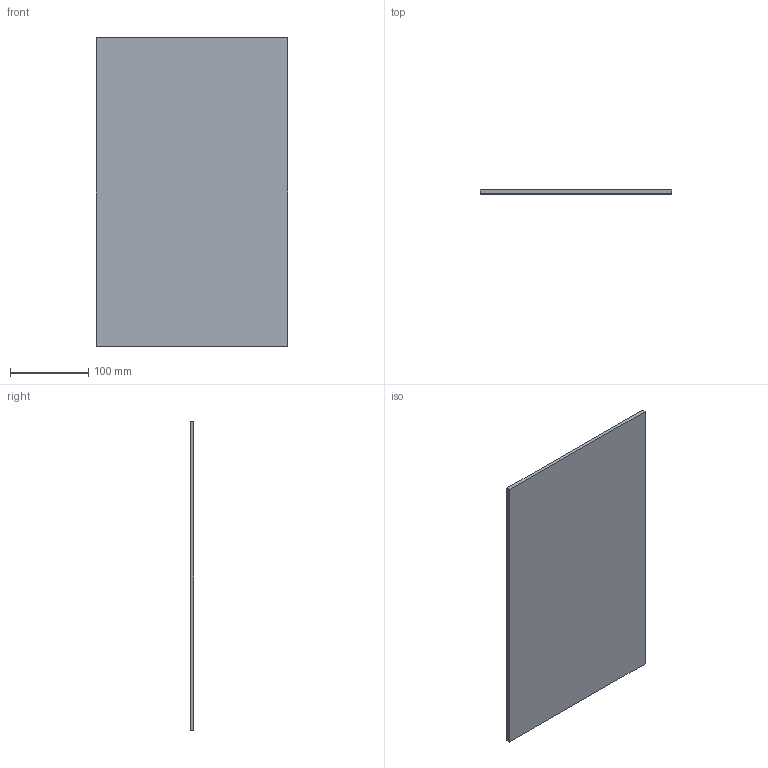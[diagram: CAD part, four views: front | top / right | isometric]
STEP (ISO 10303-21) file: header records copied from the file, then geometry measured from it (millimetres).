
FILE_DESCRIPTION (( 'STEP AP214' ), '1' );
FILE_NAME ('R42_246x396x5.STEP', '2016-02-08T17:14:32', ( '' ), ( '' ), 'SwSTEP 2.0', 'SolidWorks 2014', '' );
FILE_SCHEMA (( 'AUTOMOTIVE_DESIGN' ));
Length unit declared in the file: millimetre
Products named in the file (1): R42_246x396x5
Bounding box: 244 x 5 x 394 mm (x, y, z)
Volume: 480680 mm3; surface area: 198652 mm2
Topology: 1 solids, 1 shells, 6 faces, 12 edges, 8 vertices
Faces by surface type: plane 6
Entity records: 190 total; most frequent: CARTESIAN_POINT 27, DIRECTION 26, ORIENTED_EDGE 24, EDGE_CURVE 12, LINE 12, VECTOR 12, VERTEX_POINT 8, AXIS2_PLACEMENT_3D 7
